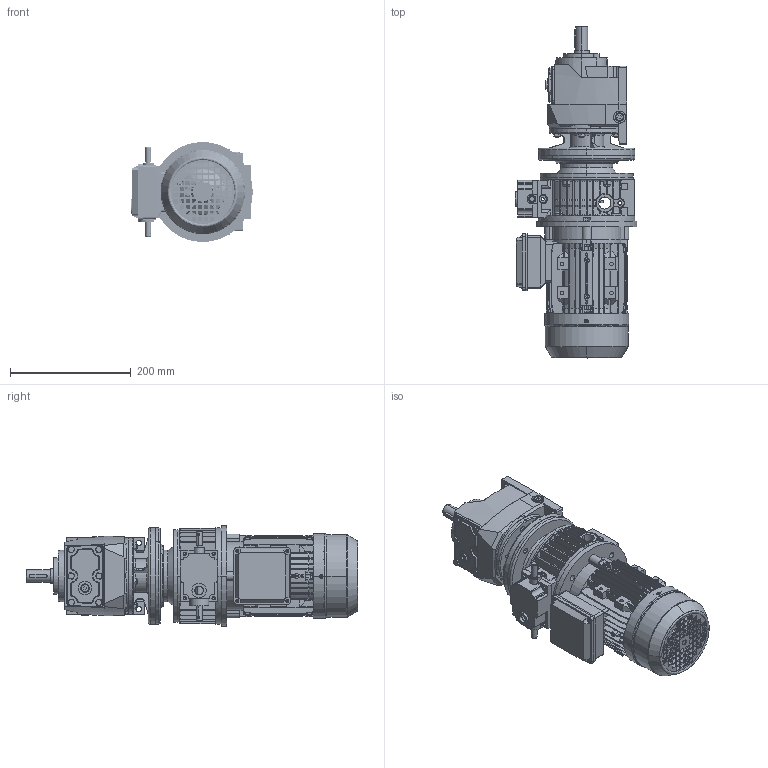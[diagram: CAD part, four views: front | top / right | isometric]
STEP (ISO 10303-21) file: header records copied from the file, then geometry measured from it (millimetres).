
FILE_DESCRIPTION (( 'STEP AP203' ), '1' );
FILE_NAME ('MV002B5_V08_71.STEP', '2022-10-13T12:32:50', ( '' ), ( '' ), 'SwSTEP 2.0', 'SolidWorks 2021', '' );
FILE_SCHEMA (( 'CONFIG_CONTROL_DESIGN' ));
Length unit declared in the file: millimetre
Products named in the file (23): ML11A_Varsay_lan.step; UDL005B5.STEP; 20-42____.STEP; MV002B5_V08_71; M003_Varsay_lan.step; Geh_use_MS71L.STEP; MN_003_B07_B5_M1.step; UDL002____.STEP; Klemmkastenoberteil_MS71.STEP; 28-47____.STEP; UDL005________14.STEP; MX71_B5.STEP; UDL002______.STEP; Klemmenkastenunterteil_MS71.STEP; UDL005________160.STEP; 0371B5_Varsay_lan.step; B-Lagerschild_MS71.STEP; B5-Flansch_MS71.STEP; UDL005-01.STEP; UDL005________.STEP; L_fterhaube_MS71.STEP; L_fterfl_gel_MS71.STEP; UDL005________-0.STEP
Assembly tree (22 placements, depth 3):
  MV002B5_V08_71
    MX71_B5.STEP
      Geh_use_MS71L.STEP
      B-Lagerschild_MS71.STEP
      B5-Flansch_MS71.STEP
      Klemmenkastenunterteil_MS71.STEP
      Klemmkastenoberteil_MS71.STEP
      L_fterfl_gel_MS71.STEP
      L_fterhaube_MS71.STEP
    UDL005B5.STEP
      UDL005-01.STEP
      UDL002______.STEP
      UDL002____.STEP
      UDL005________.STEP
      28-47____.STEP
      UDL005________14.STEP
      UDL005________-0.STEP
      20-42____.STEP
      UDL005________160.STEP
    MN_003_B07_B5_M1.step
      M003_Varsay_lan.step
      0371B5_Varsay_lan.step
      ML11A_Varsay_lan.step
Bounding box: 201.41 x 550.21 x 165.81 mm (x, y, z)
Volume: 3343934.3 mm3; surface area: 1038629.8 mm2
Topology: 19 solids, 19 shells, 4347 faces, 11561 edges, 7433 vertices
Faces by surface type: plane 1759, cylinder 1504, cone 473, torus 363, bspline 242, sphere 6
Entity records: 168756 total; most frequent: CARTESIAN_POINT 60159, ORIENTED_EDGE 23086, DIRECTION 21376, EDGE_CURVE 11543, AXIS2_PLACEMENT_3D 8051, VERTEX_POINT 7433, VECTOR 5274, LINE 5274
